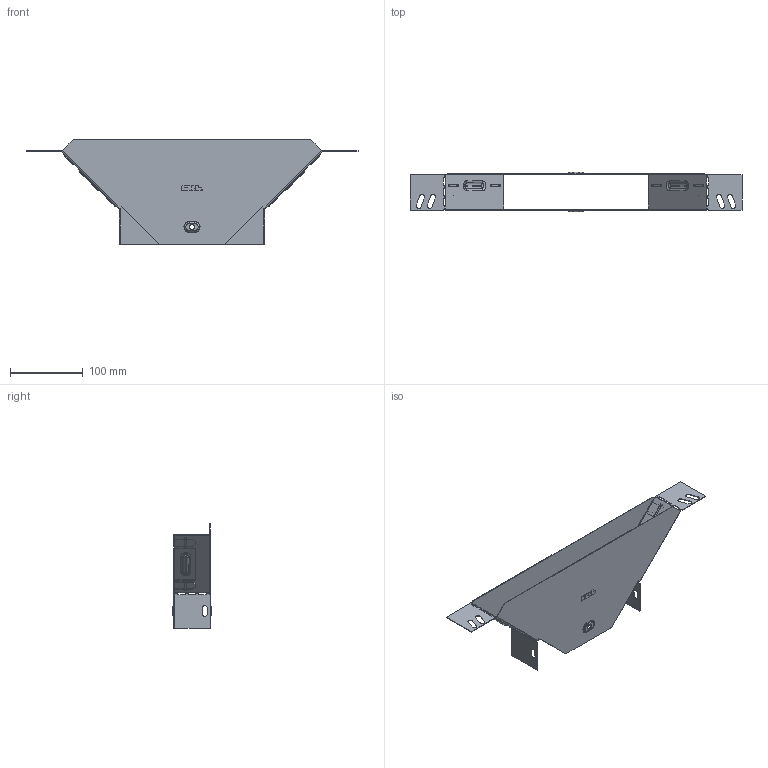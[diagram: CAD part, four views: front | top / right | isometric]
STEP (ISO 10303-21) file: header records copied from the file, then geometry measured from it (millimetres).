
FILE_DESCRIPTION (( 'STEP AP214' ), '1' );
FILE_NAME ('tn5020008_捘.STEP', '2019-06-10T07:57:55', ( '砐錪賧瘔蠈錪 Windows' ), ( '' ), 'SwSTEP 2.0', 'SolidWorks 2018', '' );
FILE_SCHEMA (( 'AUTOMOTIVE_DESIGN' ));
Length unit declared in the file: millimetre
Products named in the file (1): tn5020008_捘
Bounding box: 456.02 x 53.8 x 144 mm (x, y, z)
Volume: 72622.7 mm3; surface area: 184418.1 mm2
Topology: 2 solids, 2 shells, 572 faces, 1584 edges, 1008 vertices
Faces by surface type: plane 344, cylinder 162, torus 48, bspline 18
Entity records: 19059 total; most frequent: CARTESIAN_POINT 4123, ORIENTED_EDGE 3168, DIRECTION 3054, EDGE_CURVE 1584, LINE 1152, VECTOR 1152, VERTEX_POINT 1008, AXIS2_PLACEMENT_3D 951
